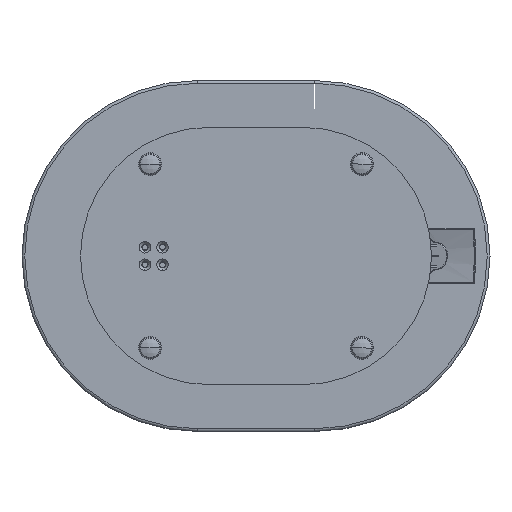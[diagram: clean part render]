
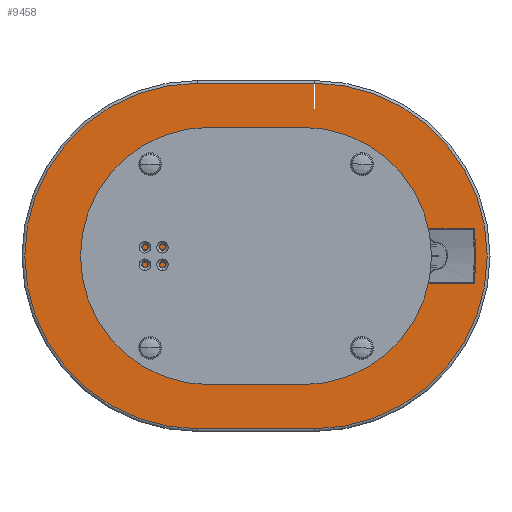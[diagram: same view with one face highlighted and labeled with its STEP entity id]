
A CAD part, front view. The second image highlights one B-rep face of the part: STEP entity #9458.
In plain terms, the highlighted planar face has unit normal (0, -1, 0).
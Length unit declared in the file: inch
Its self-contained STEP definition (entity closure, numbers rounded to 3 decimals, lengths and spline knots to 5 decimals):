
#277 = DIRECTION ( 'NONE',  ( -1., 0., 0. ) ) ;
#313 = ORIENTED_EDGE ( 'NONE', *, *, #8421, .F. ) ;
#568 = AXIS2_PLACEMENT_3D ( 'NONE', #7172, #2371, #6201 ) ;
#1191 = VERTEX_POINT ( 'NONE', #8764 ) ;
#1340 = CIRCLE ( 'NONE', #9822, 7.38189 ) ;
#1474 = VERTEX_POINT ( 'NONE', #6591 ) ;
#1608 = DIRECTION ( 'NONE',  ( 0., 0., 1. ) ) ;
#2247 = ORIENTED_EDGE ( 'NONE', *, *, #3362, .F. ) ;
#2371 = DIRECTION ( 'NONE',  ( 0., 1., 0. ) ) ;
#3053 = CIRCLE ( 'NONE', #8435, 7.38189 ) ;
#3362 = EDGE_CURVE ( 'NONE', #5740, #1474, #3053, .T. ) ;
#3448 = VECTOR ( 'NONE', #277, 39.37008 ) ;
#4305 = CARTESIAN_POINT ( 'NONE',  ( 2.5, 0., 0. ) ) ;
#5394 = DIRECTION ( 'NONE',  ( 0., 1., 0. ) ) ;
#5740 = VERTEX_POINT ( 'NONE', #11264 ) ;
#6201 = DIRECTION ( 'NONE',  ( 0., 0., 1. ) ) ;
#6371 = DIRECTION ( 'NONE',  ( 0., 0., 1. ) ) ;
#6544 = CARTESIAN_POINT ( 'NONE',  ( -2.5, 0., 0. ) ) ;
#6591 = CARTESIAN_POINT ( 'NONE',  ( -2.5, 0., 7.38189 ) ) ;
#7172 = CARTESIAN_POINT ( 'NONE',  ( -2.5, 0., 0. ) ) ;
#7320 = DIRECTION ( 'NONE',  ( 0., 1., 0. ) ) ;
#8092 = EDGE_CURVE ( 'NONE', #1191, #10250, #1340, .T. ) ;
#8363 = CARTESIAN_POINT ( 'NONE',  ( 2.5, 0., -7.38189 ) ) ;
#8421 = EDGE_CURVE ( 'NONE', #10250, #5740, #11975, .T. ) ;
#8435 = AXIS2_PLACEMENT_3D ( 'NONE', #6544, #7320, #1608 ) ;
#8483 = ORIENTED_EDGE ( 'NONE', *, *, #10513, .F. ) ;
#8484 = CARTESIAN_POINT ( 'NONE',  ( -2.5, 0., 7.38189 ) ) ;
#8764 = CARTESIAN_POINT ( 'NONE',  ( 2.5, 0., 7.38189 ) ) ;
#9080 = CARTESIAN_POINT ( 'NONE',  ( 2.5, 0., -7.38189 ) ) ;
#9458 = ADVANCED_FACE ( 'NONE', ( #11229 ), #11036, .F. ) ;
#9822 = AXIS2_PLACEMENT_3D ( 'NONE', #4305, #5394, #6371 ) ;
#10088 = ORIENTED_EDGE ( 'NONE', *, *, #8092, .F. ) ;
#10250 = VERTEX_POINT ( 'NONE', #8363 ) ;
#10513 = EDGE_CURVE ( 'NONE', #1474, #1191, #10540, .T. ) ;
#10540 = LINE ( 'NONE', #8484, #10567 ) ;
#10567 = VECTOR ( 'NONE', #12424, 39.37008 ) ;
#10960 = EDGE_LOOP ( 'NONE', ( #2247, #313, #10088, #8483 ) ) ;
#11036 = PLANE ( 'NONE',  #568 ) ;
#11229 = FACE_OUTER_BOUND ( 'NONE', #10960, .T. ) ;
#11264 = CARTESIAN_POINT ( 'NONE',  ( -2.5, 0., -7.38189 ) ) ;
#11975 = LINE ( 'NONE', #9080, #3448 ) ;
#12424 = DIRECTION ( 'NONE',  ( 1., 0., 0. ) ) ;
